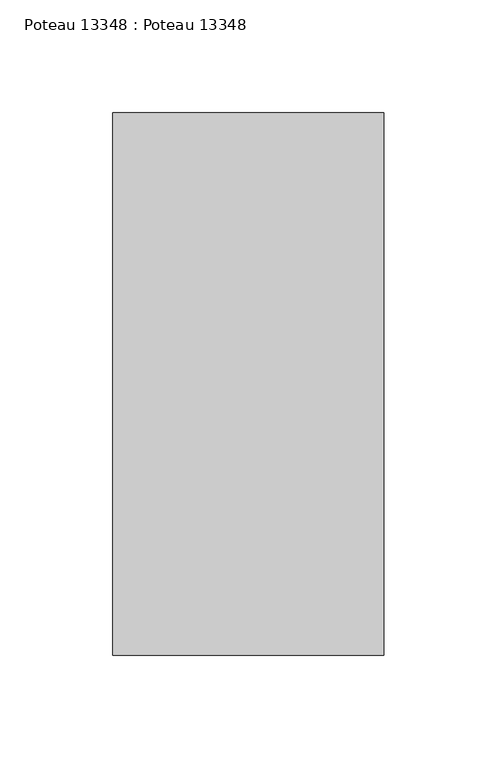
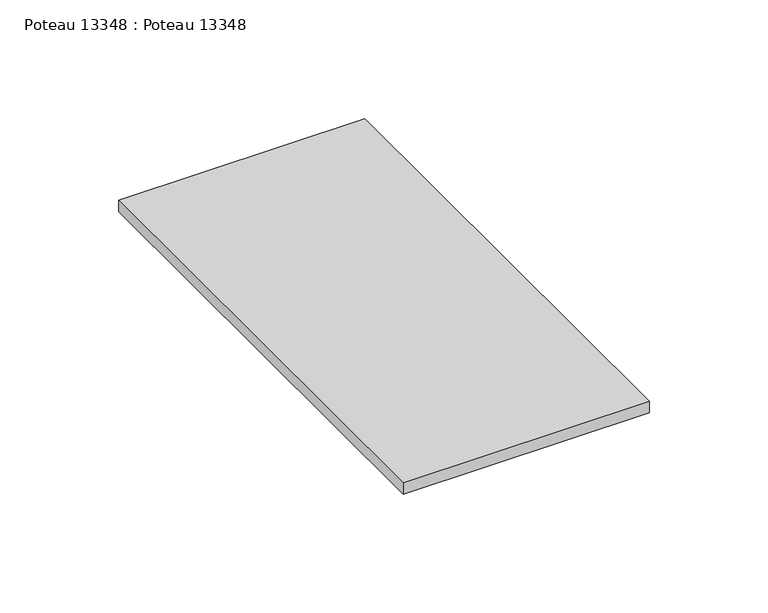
"""IFC4 building model written with IfcOpenShell, lengths in millimetres: beam geometry, Poteau 13348 : Poteau 13348."""

from ifc_helpers import new_model, si_unit, frame, origin, place, context, project, spatial, polyline, outline, extrude, source, transform, mapped, element, save


def poteau_13348_poteau_13348_5517b0e7(model_context):
    return source(origin(), model_context, "Body", "SweptSolid", [
        extrude(outline(polyline([(7664.9999999, 95.0), (7664.9999999, -145.0), (7544.9999999, -145.0), (7544.9999999, 95.0), (7664.9999999, 95.0)])), frame((0.0, 0.0, 7189.0759819), z_axis=(0.0, 0.0, 1.0), x_axis=(1.0, 0.0, 0.0)), (0.0, 0.0, 1.0), 6.0),
    ])


if __name__ == "__main__":
    model = new_model("IFC4")
    model_context = context("Model", 3, world=origin())
    ifc_project = project(units=[si_unit("LENGTHUNIT", "METRE", prefix="MILLI")], contexts=[model_context])
    site = spatial("IfcSite", under=ifc_project)
    building = spatial("IfcBuilding", under=site)
    placement = place(None, origin())
    poteau_13348_poteau_13348_shape = poteau_13348_poteau_13348_5517b0e7(model_context)
    element("IfcBeam", 1, ObjectType="Poteau 13348 : Poteau 13348", at=placement, inside=building, context=model_context, shape_type="MappedRepresentation", body=[
        mapped(poteau_13348_poteau_13348_shape, transform((0.0, 0.0, 0.0), x_axis=(1.0, 0.0, 0.0), y_axis=(0.0, 1.0, 0.0), z_axis=(0.0, 0.0, 1.0))),
    ])
    save(model, "model.ifc")
